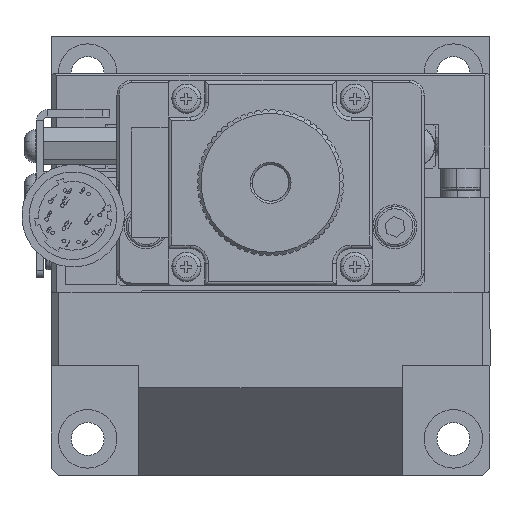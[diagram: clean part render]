
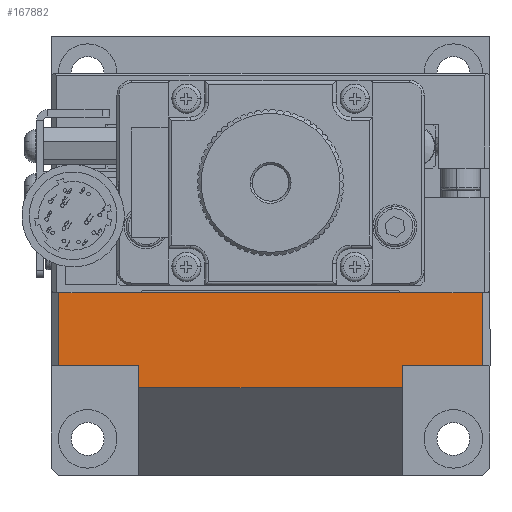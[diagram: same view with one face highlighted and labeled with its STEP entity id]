
A CAD part, front view. The second image highlights one B-rep face of the part: STEP entity #167882.
In plain terms, the highlighted planar face has unit normal (0, -1, 0).
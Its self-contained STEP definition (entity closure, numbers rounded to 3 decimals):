
#956 = CARTESIAN_POINT ( 'NONE',  ( 18., -30., -13. ) ) ;
#1096 = CARTESIAN_POINT ( 'NONE',  ( 18., -30., -110.475 ) ) ;
#1109 = EDGE_CURVE ( 'NONE', #128395, #51275, #53990, .T. ) ;
#2217 = CARTESIAN_POINT ( 'NONE',  ( 18., -30., -10. ) ) ;
#2349 = VERTEX_POINT ( 'NONE', #4157 ) ;
#2510 = CARTESIAN_POINT ( 'NONE',  ( -18., -30., -110.475 ) ) ;
#3002 = CARTESIAN_POINT ( 'NONE',  ( 29., -30., -10. ) ) ;
#4157 = CARTESIAN_POINT ( 'NONE',  ( -18., -30., -10. ) ) ;
#7453 = EDGE_CURVE ( 'NONE', #37653, #140936, #57862, .T. ) ;
#9521 = DIRECTION ( 'NONE',  ( 0., 0., -1. ) ) ;
#10045 = CARTESIAN_POINT ( 'NONE',  ( 29., -30., 0. ) ) ;
#11401 = VECTOR ( 'NONE', #23751, 1000. ) ;
#11822 = CARTESIAN_POINT ( 'NONE',  ( 29., -30., 0. ) ) ;
#12281 = DIRECTION ( 'NONE',  ( 0., 0., 1. ) ) ;
#13842 = LINE ( 'NONE', #956, #119039 ) ;
#22745 = EDGE_CURVE ( 'NONE', #48965, #128395, #13842, .T. ) ;
#23751 = DIRECTION ( 'NONE',  ( 0., 0., 1. ) ) ;
#24978 = DIRECTION ( 'NONE',  ( 1., 0., 0. ) ) ;
#26569 = ORIENTED_EDGE ( 'NONE', *, *, #1109, .T. ) ;
#29312 = ORIENTED_EDGE ( 'NONE', *, *, #94953, .F. ) ;
#30219 = AXIS2_PLACEMENT_3D ( 'NONE', #155385, #64831, #143407 ) ;
#30702 = LINE ( 'NONE', #2510, #51325 ) ;
#32455 = DIRECTION ( 'NONE',  ( 1., 0., 0. ) ) ;
#34681 = DIRECTION ( 'NONE',  ( 1., 0., 0. ) ) ;
#37653 = VERTEX_POINT ( 'NONE', #3002 ) ;
#46806 = EDGE_CURVE ( 'NONE', #51275, #37653, #98717, .T. ) ;
#48965 = VERTEX_POINT ( 'NONE', #120997 ) ;
#51275 = VERTEX_POINT ( 'NONE', #2217 ) ;
#51325 = VECTOR ( 'NONE', #93931, 1000. ) ;
#53180 = CARTESIAN_POINT ( 'NONE',  ( -29., -30., -10. ) ) ;
#53990 = LINE ( 'NONE', #1096, #153842 ) ;
#56452 = VECTOR ( 'NONE', #34681, 1000. ) ;
#57862 = LINE ( 'NONE', #10045, #11401 ) ;
#58153 = ORIENTED_EDGE ( 'NONE', *, *, #46806, .T. ) ;
#58780 = ORIENTED_EDGE ( 'NONE', *, *, #105602, .F. ) ;
#61462 = CARTESIAN_POINT ( 'NONE',  ( -125.525, -30., 0. ) ) ;
#64831 = DIRECTION ( 'NONE',  ( 0., -1., 0. ) ) ;
#87774 = VERTEX_POINT ( 'NONE', #105591 ) ;
#88894 = DIRECTION ( 'NONE',  ( 1., 0., 0. ) ) ;
#91040 = ORIENTED_EDGE ( 'NONE', *, *, #137012, .T. ) ;
#91161 = ORIENTED_EDGE ( 'NONE', *, *, #7453, .T. ) ;
#93931 = DIRECTION ( 'NONE',  ( 0., 0., 1. ) ) ;
#94953 = EDGE_CURVE ( 'NONE', #87774, #140936, #97341, .T. ) ;
#97341 = LINE ( 'NONE', #61462, #130336 ) ;
#98717 = LINE ( 'NONE', #113233, #56452 ) ;
#101858 = VECTOR ( 'NONE', #9521, 1000. ) ;
#102564 = ORIENTED_EDGE ( 'NONE', *, *, #117002, .T. ) ;
#105591 = CARTESIAN_POINT ( 'NONE',  ( -29., -30., 0. ) ) ;
#105602 = EDGE_CURVE ( 'NONE', #48965, #2349, #30702, .T. ) ;
#113233 = CARTESIAN_POINT ( 'NONE',  ( -125.525, -30., -10. ) ) ;
#117002 = EDGE_CURVE ( 'NONE', #128368, #2349, #152162, .T. ) ;
#119039 = VECTOR ( 'NONE', #24978, 1000. ) ;
#120997 = CARTESIAN_POINT ( 'NONE',  ( -18., -30., -13. ) ) ;
#125645 = CARTESIAN_POINT ( 'NONE',  ( -29., -30., -10. ) ) ;
#128368 = VERTEX_POINT ( 'NONE', #53180 ) ;
#128395 = VERTEX_POINT ( 'NONE', #167755 ) ;
#130336 = VECTOR ( 'NONE', #32455, 1000. ) ;
#137012 = EDGE_CURVE ( 'NONE', #87774, #128368, #152167, .T. ) ;
#140073 = FACE_OUTER_BOUND ( 'NONE', #160136, .T. ) ;
#140936 = VERTEX_POINT ( 'NONE', #11822 ) ;
#141706 = PLANE ( 'NONE',  #30219 ) ;
#143407 = DIRECTION ( 'NONE',  ( 0., 0., 1. ) ) ;
#152162 = LINE ( 'NONE', #164973, #154381 ) ;
#152167 = LINE ( 'NONE', #125645, #101858 ) ;
#153842 = VECTOR ( 'NONE', #12281, 1000. ) ;
#154381 = VECTOR ( 'NONE', #88894, 1000. ) ;
#155385 = CARTESIAN_POINT ( 'NONE',  ( -125.525, -30., 0. ) ) ;
#160136 = EDGE_LOOP ( 'NONE', ( #58780, #165054, #26569, #58153, #91161, #29312, #91040, #102564 ) ) ;
#164973 = CARTESIAN_POINT ( 'NONE',  ( -125.525, -30., -10. ) ) ;
#165054 = ORIENTED_EDGE ( 'NONE', *, *, #22745, .T. ) ;
#167755 = CARTESIAN_POINT ( 'NONE',  ( 18., -30., -13. ) ) ;
#167882 = ADVANCED_FACE ( 'NONE', ( #140073 ), #141706, .T. ) ;
